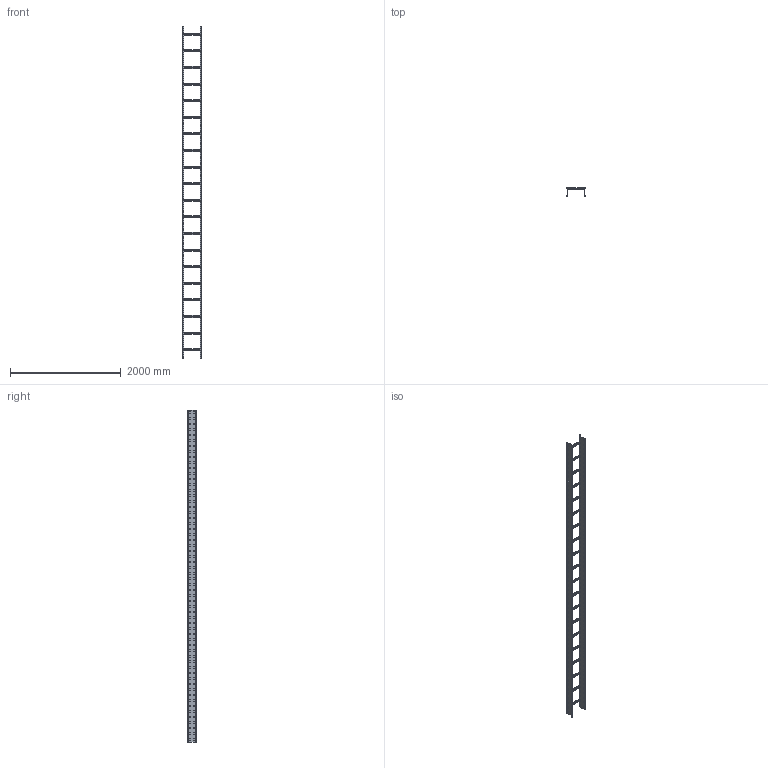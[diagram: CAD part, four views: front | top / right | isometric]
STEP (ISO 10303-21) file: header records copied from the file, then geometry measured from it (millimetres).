
FILE_DESCRIPTION(('Creo Elements/Direct Modeling STEP Export'),'2;1');
FILE_NAME('WP15-30.stp','2016-05-13T13:28:42',(''),(''),'PTC Creo Elements/Direct Modeling STEP processor for AP214 (Solid Model)','PTC Creo Elements/Direct Modeling 19.0C 15-Aug-2015 (C) Parametric Technology GmbH','');
FILE_SCHEMA(('AUTOMOTIVE_DESIGN { 1 0 10303 214 1 1 1 1 }'));
Length unit declared in the file: millimetre
Products named in the file (3): WPH150; WPSP_03; WP15-30-HDG
Assembly tree (22 placements, depth 2):
  WP15-30-HDG
    WPSP_03  x20
    WPH150  x2
Bounding box: 350 x 150 x 6000 mm (x, y, z)
Volume: 5174008.8 mm3; surface area: 6193657.4 mm2
Topology: 22 solids, 22 shells, 3052 faces, 9024 edges, 6016 vertices
Faces by surface type: plane 1972, cylinder 1080
Entity records: 23726 total; most frequent: ORIENTED_EDGE 4164, CARTESIAN_POINT 4105, DIRECTION 3643, EDGE_CURVE 2082, VECTOR 1791, LINE 1791, VERTEX_POINT 1388, EDGE_LOOP 1040
